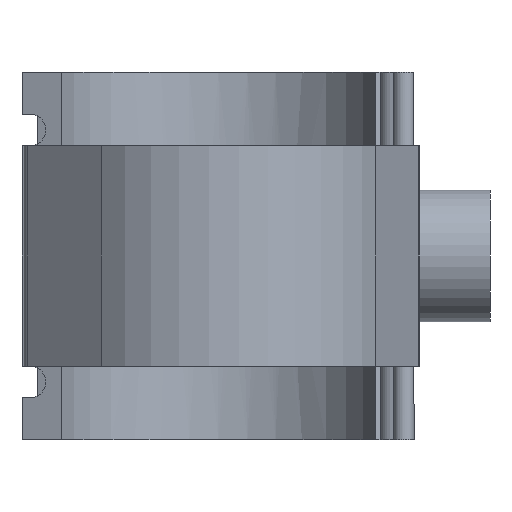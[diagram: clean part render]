
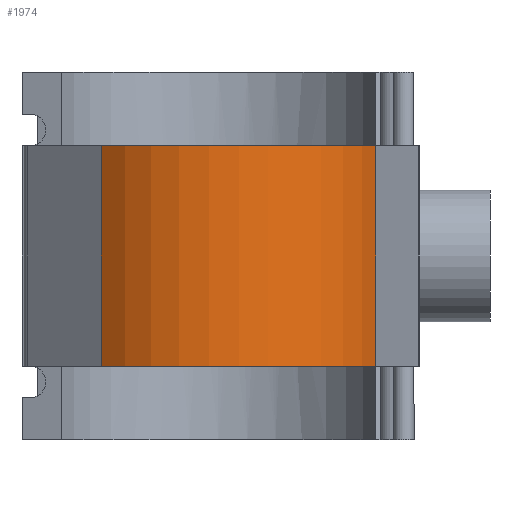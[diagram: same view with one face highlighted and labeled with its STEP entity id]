
A CAD part, front view. The second image highlights one B-rep face of the part: STEP entity #1974.
In plain terms, the highlighted cylindrical face has radius 82.4 mm (diameter 164.8 mm), a partial arc.
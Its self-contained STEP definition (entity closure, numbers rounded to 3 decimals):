
#222=FACE_OUTER_BOUND('',#349,.T.);
#349=EDGE_LOOP('',(#1808,#1809,#1810,#1811));
#445=CIRCLE('',#2183,82.4);
#448=CIRCLE('',#2187,82.4);
#614=LINE('',#3932,#776);
#618=LINE('',#3941,#780);
#776=VECTOR('',#2764,10.);
#780=VECTOR('',#2778,10.);
#961=VERTEX_POINT('',#3895);
#962=VERTEX_POINT('',#3897);
#965=VERTEX_POINT('',#3905);
#966=VERTEX_POINT('',#3907);
#1231=EDGE_CURVE('',#961,#962,#445,.T.);
#1236=EDGE_CURVE('',#965,#966,#448,.T.);
#1250=EDGE_CURVE('',#965,#962,#614,.T.);
#1254=EDGE_CURVE('',#961,#966,#618,.T.);
#1808=ORIENTED_EDGE('',*,*,#1254,.T.);
#1809=ORIENTED_EDGE('',*,*,#1236,.F.);
#1810=ORIENTED_EDGE('',*,*,#1250,.T.);
#1811=ORIENTED_EDGE('',*,*,#1231,.F.);
#1868=CYLINDRICAL_SURFACE('',#2202,82.4);
#1974=ADVANCED_FACE('',(#222),#1868,.T.);
#2183=AXIS2_PLACEMENT_3D('',#3898,#2726,#2727);
#2187=AXIS2_PLACEMENT_3D('',#3908,#2736,#2737);
#2202=AXIS2_PLACEMENT_3D('',#3942,#2779,#2780);
#2726=DIRECTION('center_axis',(0.,0.,-1.));
#2727=DIRECTION('ref_axis',(0.679,0.734,0.));
#2736=DIRECTION('center_axis',(0.,0.,1.));
#2737=DIRECTION('ref_axis',(0.679,0.734,0.));
#2764=DIRECTION('',(0.,0.,-1.));
#2778=DIRECTION('',(0.,0.,1.));
#2779=DIRECTION('center_axis',(0.,0.,1.));
#2780=DIRECTION('ref_axis',(0.679,0.734,0.));
#3895=CARTESIAN_POINT('',(75.413,-33.206,-52.8));
#3897=CARTESIAN_POINT('',(-55.986,-60.46,-52.8));
#3898=CARTESIAN_POINT('Origin',(0.,0.,
-52.8));
#3905=CARTESIAN_POINT('',(-55.986,-60.46,52.8));
#3907=CARTESIAN_POINT('',(75.413,-33.206,52.8));
#3908=CARTESIAN_POINT('Origin',(0.,0.,
52.8));
#3932=CARTESIAN_POINT('',(-55.986,-60.46,0.));
#3941=CARTESIAN_POINT('',(75.413,-33.206,0.));
#3942=CARTESIAN_POINT('Origin',(0.,0.,
0.));
